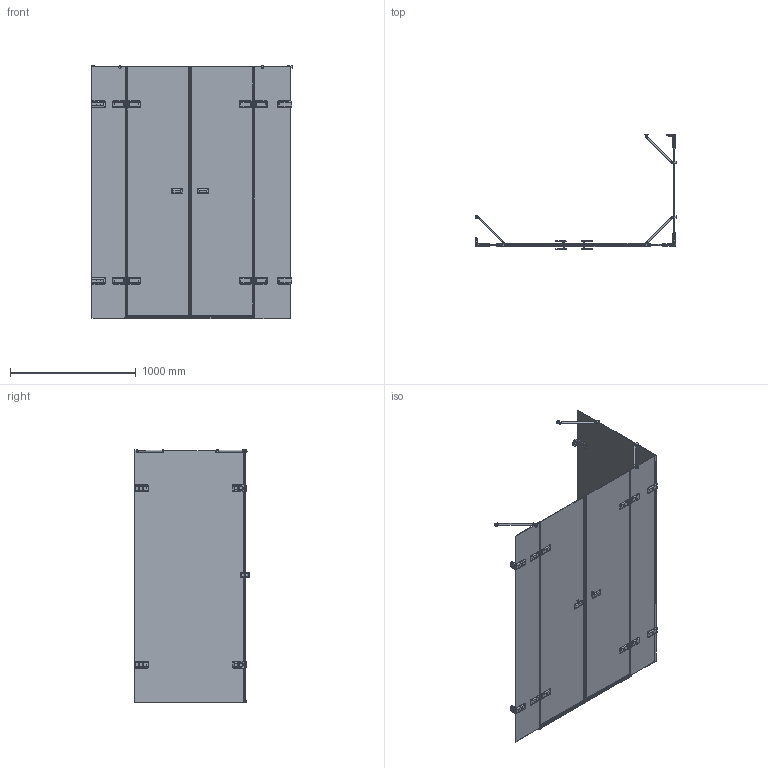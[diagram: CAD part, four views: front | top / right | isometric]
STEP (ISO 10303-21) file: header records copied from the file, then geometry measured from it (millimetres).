
FILE_DESCRIPTION(/* description */ (''),/* implementation_level */ '2;1');
FILE_NAME(/* name */ 'C:\Autodesk\88\777\! Не доделанные- сделана модель\TREND RECTAN GK-865\TREND RECTAN GK-865 левая модель\TREND RECTAN GK-865 ЛЕВАЯ-3D.stp',/* time_stamp */ '2021-01-19T10:12:05+03:00',/* author */ ('ChechurovS'),/* organization */ (''),/* preprocessor_version */ 'ST-DEVELOPER v15.2',/* originating_system */ 'Autodesk Inventor 2014',/* authorisation */ '');
FILE_SCHEMA (('AUTOMOTIVE_DESIGN { 1 0 10303 214 3 1 1 }'));
Products named in the file (1): TREND RECTAN GK-865 ЛЕВАЯ-3D
Bounding box: 1593.5 x 912.94 x 2009.49 mm (x, y, z)
Volume: 31339881 mm3; surface area: 10703540.8 mm2
Topology: 12 solids, 51 shells, 3168 faces, 8210 edges, 5120 vertices
Faces by surface type: plane 1763, cylinder 862, bspline 338, cone 88, torus 84, sphere 33
Full cylindrical faces by diameter (mm): 4 x4, 4.134 x4, 4.917 x8, 5 x12, 5.2 x4, 6 x12, 7.2 x8, 8 x4, 9 x16, 11 x4, 13 x20, 15 x3, 16 x20, 20 x6, 26 x2, 28 x4, 28.5 x4, 40 x4
Entity records: 138228 total; most frequent: CARTESIAN_POINT 60508, ORIENTED_EDGE 15548, DIRECTION 14964, EDGE_CURVE 7770, AXIS2_PLACEMENT_3D 5210, VERTEX_POINT 5024, LINE 4544, VECTOR 4544
